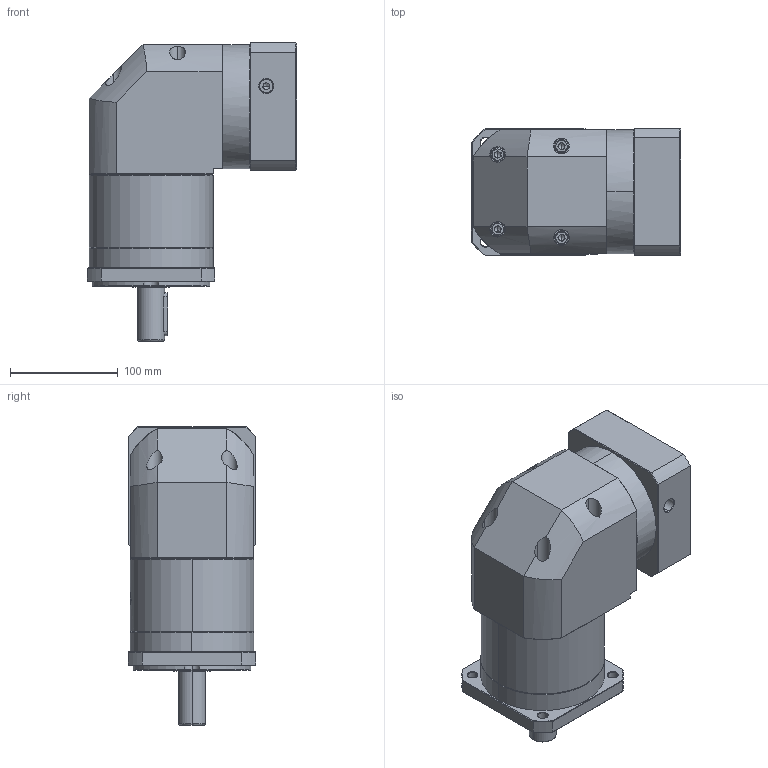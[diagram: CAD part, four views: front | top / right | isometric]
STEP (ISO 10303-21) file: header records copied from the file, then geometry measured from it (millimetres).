
FILE_DESCRIPTION (( 'STEP AP214' ), '1' );
FILE_NAME ('ZFR120A-D25-L2-P2-24-110-130-M8.step', '2023-08-27T08:03:40', ( '' ), ( '' ), 'SwSTEP 2.0', 'SolidWorks 2016', '' );
FILE_SCHEMA (( 'AUTOMOTIVE_DESIGN' ));
Length unit declared in the file: millimetre
Products named in the file (1): ZFR120A-D25-L2-P2-24-110-130-M8
Bounding box: 193.9 x 118 x 276.5 mm (x, y, z)
Volume: 3165818.6 mm3; surface area: 254640.6 mm2
Topology: 6 solids, 6 shells, 2265 faces, 5985 edges, 3825 vertices
Faces by surface type: plane 1061, cylinder 434, bspline 424, cone 338, torus 8
Entity records: 124161 total; most frequent: CARTESIAN_POINT 48695, ORIENTED_EDGE 11910, DIRECTION 8640, EDGE_CURVE 5955, VERTEX_POINT 3825, VECTOR 3160, LINE 3160, AXIS2_PLACEMENT_3D 2740
